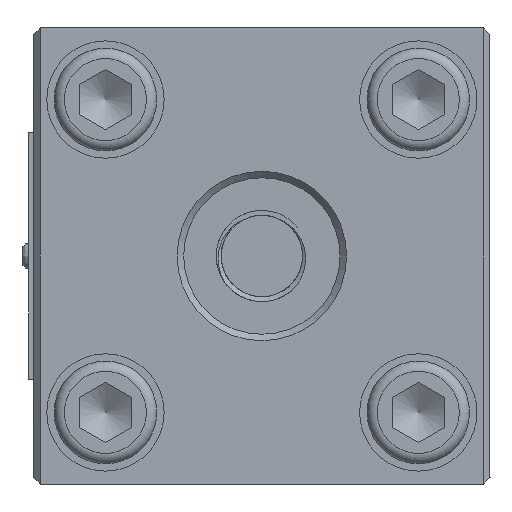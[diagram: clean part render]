
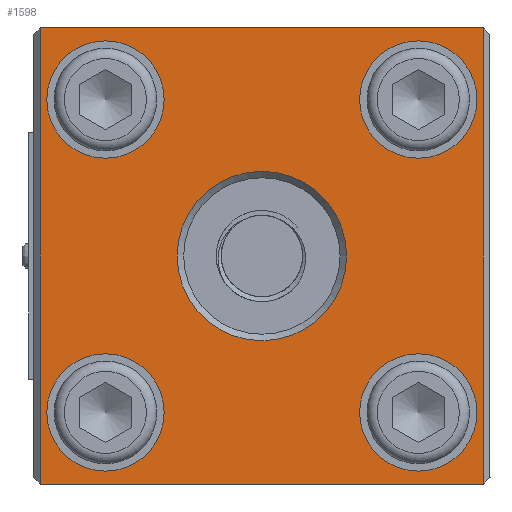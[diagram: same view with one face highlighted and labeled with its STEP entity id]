
A CAD part, left-side view. The second image highlights one B-rep face of the part: STEP entity #1598.
In plain terms, the highlighted planar face has unit normal (-1, 0, 0).
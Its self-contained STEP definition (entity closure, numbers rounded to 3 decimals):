
#400=LINE('',#34773,#586);
#401=LINE('',#34776,#587);
#402=LINE('',#34778,#588);
#403=LINE('',#34780,#589);
#586=VECTOR('',#5732,1.);
#587=VECTOR('',#5733,1.);
#588=VECTOR('',#5734,1.);
#589=VECTOR('',#5735,1.);
#1206=PLANE('',#4742);
#1598=ADVANCED_FACE('',(#1886,#1887,#1888,#1889,#1890,#1891),#1206,.F.);
#1886=FACE_BOUND('',#2335,.T.);
#1887=FACE_BOUND('',#2336,.T.);
#1888=FACE_BOUND('',#2337,.T.);
#1889=FACE_BOUND('',#2338,.T.);
#1890=FACE_BOUND('',#2339,.T.);
#1891=FACE_BOUND('',#2340,.T.);
#2335=EDGE_LOOP('',(#3233));
#2336=EDGE_LOOP('',(#3234));
#2337=EDGE_LOOP('',(#3235));
#2338=EDGE_LOOP('',(#3236));
#2339=EDGE_LOOP('',(#3237));
#2340=EDGE_LOOP('',(#3238,#3239,#3240,#3241));
#3233=ORIENTED_EDGE('',*,*,#4134,.T.);
#3234=ORIENTED_EDGE('',*,*,#4135,.T.);
#3235=ORIENTED_EDGE('',*,*,#4136,.T.);
#3236=ORIENTED_EDGE('',*,*,#4137,.T.);
#3237=ORIENTED_EDGE('',*,*,#4138,.F.);
#3238=ORIENTED_EDGE('',*,*,#4139,.T.);
#3239=ORIENTED_EDGE('',*,*,#4140,.F.);
#3240=ORIENTED_EDGE('',*,*,#4141,.F.);
#3241=ORIENTED_EDGE('',*,*,#4142,.T.);
#3668=VERTEX_POINT('',#34764);
#3669=VERTEX_POINT('',#34766);
#3670=VERTEX_POINT('',#34768);
#3671=VERTEX_POINT('',#34770);
#3672=VERTEX_POINT('',#34772);
#3673=VERTEX_POINT('',#34774);
#3674=VERTEX_POINT('',#34775);
#3675=VERTEX_POINT('',#34777);
#3676=VERTEX_POINT('',#34779);
#4134=EDGE_CURVE('',#3668,#3668,#4328,.T.);
#4135=EDGE_CURVE('',#3669,#3669,#4329,.T.);
#4136=EDGE_CURVE('',#3670,#3670,#4330,.T.);
#4137=EDGE_CURVE('',#3671,#3671,#4331,.T.);
#4138=EDGE_CURVE('',#3672,#3672,#4332,.T.);
#4139=EDGE_CURVE('',#3673,#3674,#400,.T.);
#4140=EDGE_CURVE('',#3675,#3674,#401,.T.);
#4141=EDGE_CURVE('',#3676,#3675,#402,.T.);
#4142=EDGE_CURVE('',#3676,#3673,#403,.T.);
#4328=CIRCLE('',#4737,9.);
#4329=CIRCLE('',#4738,9.);
#4330=CIRCLE('',#4739,9.);
#4331=CIRCLE('',#4740,9.);
#4332=CIRCLE('',#4741,13.);
#4737=AXIS2_PLACEMENT_3D('',#34763,#5722,#5723);
#4738=AXIS2_PLACEMENT_3D('',#34765,#5724,#5725);
#4739=AXIS2_PLACEMENT_3D('',#34767,#5726,#5727);
#4740=AXIS2_PLACEMENT_3D('',#34769,#5728,#5729);
#4741=AXIS2_PLACEMENT_3D('',#34771,#5730,#5731);
#4742=AXIS2_PLACEMENT_3D('',#34781,#5736,#5737);
#5722=DIRECTION('',(1.,0.,0.));
#5723=DIRECTION('',(0.,0.,-1.));
#5724=DIRECTION('',(1.,0.,0.));
#5725=DIRECTION('',(0.,0.,-1.));
#5726=DIRECTION('',(1.,0.,0.));
#5727=DIRECTION('',(0.,0.,-1.));
#5728=DIRECTION('',(1.,0.,0.));
#5729=DIRECTION('',(0.,0.,-1.));
#5730=DIRECTION('',(-1.,0.,0.));
#5731=DIRECTION('',(0.,0.,1.));
#5732=DIRECTION('',(0.,-1.,0.));
#5733=DIRECTION('',(0.,0.,-1.));
#5734=DIRECTION('',(0.,-1.,0.));
#5735=DIRECTION('',(0.,0.,-1.));
#5736=DIRECTION('',(1.,0.,0.));
#5737=DIRECTION('',(0.,0.,1.));
#34763=CARTESIAN_POINT('',(152.452,226.81,-24.107));
#34764=CARTESIAN_POINT('',(152.452,226.81,-33.107));
#34765=CARTESIAN_POINT('',(152.452,226.81,23.893));
#34766=CARTESIAN_POINT('',(152.452,226.81,14.893));
#34767=CARTESIAN_POINT('',(152.452,274.81,-24.107));
#34768=CARTESIAN_POINT('',(152.452,274.81,-33.107));
#34769=CARTESIAN_POINT('',(152.452,274.81,23.893));
#34770=CARTESIAN_POINT('',(152.452,274.81,14.893));
#34771=CARTESIAN_POINT('',(152.452,250.81,-0.107));
#34772=CARTESIAN_POINT('',(152.452,250.81,12.893));
#34773=CARTESIAN_POINT('',(152.452,284.81,-35.107));
#34774=CARTESIAN_POINT('',(152.452,284.81,-35.107));
#34775=CARTESIAN_POINT('',(152.452,216.81,-35.107));
#34776=CARTESIAN_POINT('',(152.452,216.81,34.893));
#34777=CARTESIAN_POINT('',(152.452,216.81,34.893));
#34778=CARTESIAN_POINT('',(152.452,284.81,34.893));
#34779=CARTESIAN_POINT('',(152.452,284.81,34.893));
#34780=CARTESIAN_POINT('',(152.452,284.81,34.893));
#34781=CARTESIAN_POINT('',(152.452,284.81,34.893));
